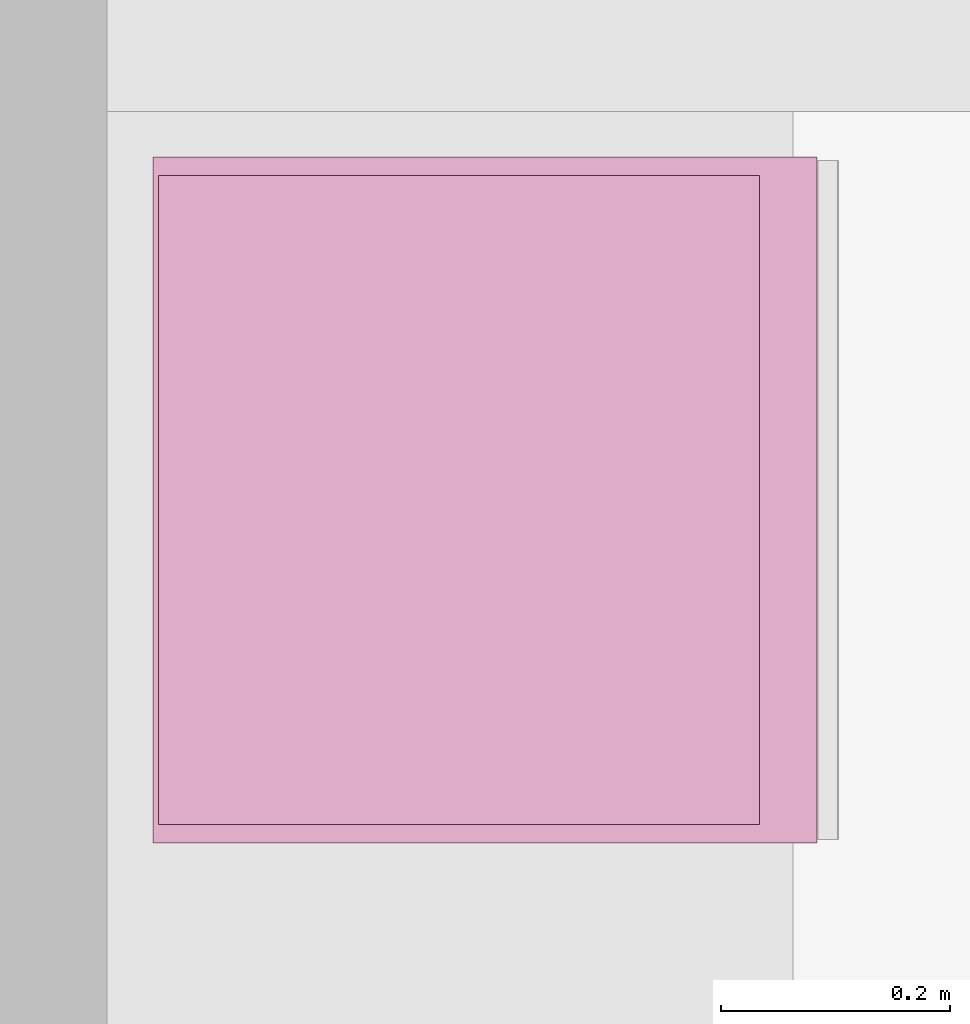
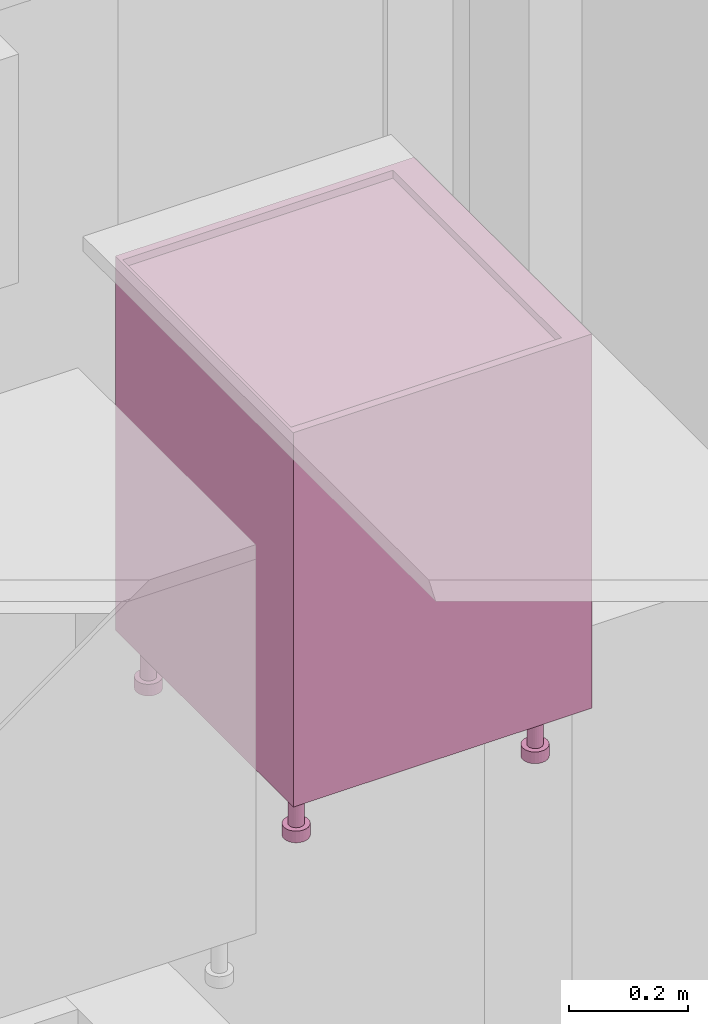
# One storey, part 72 of 125: 1 furnishing.
"""IFC2X3 building model written with IfcOpenShell, lengths in millimetres."""

from ifc_helpers import new_model, entity, si_unit, converted_unit, direction, frame, origin, place, context, subcontext, project, spatial, faceted_brep, source, transform, mapped, material, type_object, type_shapes, element, save


model = new_model("IFC2X3")

# Units and contexts
model_context = context("Model", 3, precision=0.01, world=origin(), true_north=direction((6.123233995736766e-17, 1.0)))
plan_context = context("Plan", 3, precision=0.01, world=origin(), true_north=direction((6.123233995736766e-17, 1.0)))
body_context = subcontext(model_context, "Body", "Model", "MODEL_VIEW")
ifc_project = project(units=[si_unit("LENGTHUNIT", "METRE", prefix="MILLI"), converted_unit("PLANEANGLEUNIT", "DEGREE", entity("IfcPlaneAngleMeasure", 0.017453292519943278), si_unit("PLANEANGLEUNIT", "RADIAN"), dimensions=[0, 0, 0, 0, 0, 0, 0]), si_unit("AREAUNIT", "SQUARE_METRE")], contexts=[model_context, plan_context])

# Site, building, storey, space
site_placement = place(None, origin())
site = spatial("IfcSite", under=ifc_project, at=site_placement, Name="Default", CompositionType="ELEMENT")
building_placement = place(site_placement, origin())
building = spatial("IfcBuilding", under=site, at=building_placement, CompositionType="ELEMENT")
storey_placement = place(building_placement, frame((0.0, 0.0, 3125.0)))
storey = spatial("IfcBuildingStorey", under=building, at=storey_placement, Name="2K", CompositionType="ELEMENT", Elevation=3125.0)
space_placement = place(storey_placement, origin())
space = spatial("IfcSpace", under=storey, at=space_placement, Name="2-2.4", CompositionType="ELEMENT", InteriorOrExteriorSpace="INTERNAL")

# Furnishing
ifc_material = material(Name="<Unnamed>")
furniture_type = type_object("IfcFurnitureType", Name="HR_Casework_Kitchen_Generic_Appliance_v1:Washing Machine", AssemblyPlace="NOTDEFINED", material=ifc_material)
shared_shape = source(origin(), body_context, "Body", "Brep", [
    faceted_brep([(305.7003264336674, -585.7846096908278, -3101.0), (310.6708891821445, -581.9705627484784, -3101.0), (300.70032643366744, -577.1243556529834, -3101.0), (297.32379306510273, -578.5229615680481, -3101.0), (299.91198351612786, -588.1822198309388, -3101.0), (303.59982137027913, -574.8994949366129, -3101.0), (314.4849361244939, -577.0, -3101.0), (305.82468208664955, -572.0, -3101.0), (307.2232880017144, -568.6234666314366, -3101.0), (316.8825462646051, -571.2116570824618, -3101.0), (307.70032643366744, -565.0, -3101.0), (317.7003264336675, -565.0, -3101.0), (307.2232880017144, -561.3765333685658, -3101.0), (316.88254626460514, -558.7883429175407, -3101.0), (305.82468208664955, -558.0, -3101.0), (314.484936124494, -553.0, -3101.0), (303.59982137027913, -555.1005050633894, -3101.0), (310.67088918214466, -548.0294372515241, -3101.0), (300.70032643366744, -552.875644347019, -3101.0), (305.7003264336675, -544.2153903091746, -3101.0), (297.32379306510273, -551.4770384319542, -3101.0), (299.91198351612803, -541.8177801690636, -3101.0), (293.7003264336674, -551.0, -3101.0), (293.70032643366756, -541.0, -3101.0), (290.07685980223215, -551.4770384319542, -3101.0), (287.488669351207, -541.8177801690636, -3101.0), (286.70032643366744, -552.875644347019, -3101.0), (281.7003264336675, -544.2153903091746, -3101.0), (283.80083149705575, -555.1005050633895, -3101.0), (276.7297636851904, -548.029437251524, -3101.0), (281.5759707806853, -558.0, -3101.0), (272.91571674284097, -553.0, -3101.0), (270.51810660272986, -558.7883429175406, -3101.0), (280.1773648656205, -561.3765333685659, -3101.0), (269.7003264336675, -565.0, -3101.0), (279.7003264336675, -565.0, -3101.0), (270.51810660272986, -571.2116570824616, -3101.0), (280.1773648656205, -568.6234666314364, -3101.0), (272.9157167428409, -577.0, -3101.0), (281.57597078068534, -572.0, -3101.0), (276.7297636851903, -581.9705627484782, -3101.0), (283.80083149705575, -574.8994949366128, -3101.0), (281.70032643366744, -585.7846096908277, -3101.0), (286.70032643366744, -577.1243556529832, -3101.0), (287.4886693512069, -588.1822198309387, -3101.0), (290.07685980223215, -578.5229615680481, -3101.0), (293.7003264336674, -589.0, -3101.0), (293.70032643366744, -579.0, -3101.0), (299.91198351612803, -541.8177801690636, -3125.0), (305.7003264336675, -544.2153903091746, -3125.0), (310.67088918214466, -548.0294372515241, -3125.0), (314.484936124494, -553.0, -3125.0), (316.88254626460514, -558.7883429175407, -3125.0), (317.7003264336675, -565.0, -3125.0), (316.8825462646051, -571.2116570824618, -3125.0), (314.4849361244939, -577.0, -3125.0), (310.6708891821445, -581.9705627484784, -3125.0), (305.7003264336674, -585.7846096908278, -3125.0), (299.91198351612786, -588.1822198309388, -3125.0), (293.7003264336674, -589.0, -3125.0), (287.4886693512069, -588.1822198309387, -3125.0), (281.70032643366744, -585.7846096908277, -3125.0), (276.7297636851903, -581.9705627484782, -3125.0), (272.9157167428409, -577.0, -3125.0), (270.51810660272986, -571.2116570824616, -3125.0), (269.7003264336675, -565.0, -3125.0), (270.51810660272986, -558.7883429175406, -3125.0), (272.91571674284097, -553.0, -3125.0), (276.7297636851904, -548.029437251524, -3125.0), (281.7003264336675, -544.2153903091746, -3125.0), (287.488669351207, -541.8177801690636, -3125.0), (293.70032643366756, -541.0, -3125.0), (297.32379306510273, -578.5229615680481, -3025.0), (300.70032643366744, -577.1243556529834, -3025.0), (303.59982137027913, -574.8994949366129, -3025.0), (305.8246820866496, -572.0, -3025.0), (307.2232880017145, -568.6234666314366, -3025.0), (307.70032643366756, -565.0, -3025.0), (307.2232880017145, -561.3765333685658, -3025.0), (305.8246820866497, -558.0, -3025.0), (303.5998213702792, -555.1005050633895, -3025.0), (300.70032643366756, -552.875644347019, -3025.0), (297.32379306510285, -551.4770384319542, -3025.0), (293.70032643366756, -551.0, -3025.0), (290.07685980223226, -551.4770384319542, -3025.0), (286.70032643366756, -552.875644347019, -3025.0), (283.80083149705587, -555.1005050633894, -3025.0), (281.5759707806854, -558.0, -3025.0), (280.1773648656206, -561.3765333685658, -3025.0), (279.70032643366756, -565.0, -3025.0), (280.1773648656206, -568.6234666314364, -3025.0), (281.5759707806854, -572.0, -3025.0), (283.8008314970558, -574.8994949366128, -3025.0), (286.7003264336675, -577.1243556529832, -3025.0), (290.07685980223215, -578.5229615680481, -3025.0), (293.70032643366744, -579.0, -3025.0)], [[[0, 1, 2]], [[0, 2, 3]], [[3, 4, 0]], [[2, 1, 5]], [[6, 5, 1]], [[7, 5, 6]], [[8, 7, 6]], [[8, 6, 9]], [[8, 9, 10]], [[10, 9, 11]], [[12, 10, 11]], [[12, 11, 13]], [[14, 12, 13]], [[14, 13, 15]], [[16, 14, 15]], [[15, 17, 16]], [[17, 18, 16]], [[18, 17, 19]], [[18, 19, 20]], [[21, 20, 19]], [[20, 21, 22]], [[22, 21, 23]], [[23, 24, 22]], [[24, 23, 25]], [[24, 25, 26]], [[27, 26, 25]], [[27, 28, 26]], [[27, 29, 28]], [[30, 28, 29]], [[31, 30, 29]], [[32, 30, 31]], [[33, 30, 32]], [[33, 32, 34]], [[34, 35, 33]], [[36, 35, 34]], [[36, 37, 35]], [[37, 36, 38]], [[39, 37, 38]], [[39, 38, 40]], [[39, 40, 41]], [[40, 42, 41]], [[41, 42, 43]], [[43, 42, 44]], [[44, 45, 43]], [[46, 45, 44]], [[4, 47, 46]], [[45, 46, 47]], [[4, 3, 47]], [[48, 49, 50, 51, 52, 53, 54, 55, 56, 57, 58, 59, 60, 61, 62, 63, 64, 65, 66, 67, 68, 69, 70, 71]], [[64, 36, 34, 65]], [[63, 38, 36, 64]], [[42, 40, 62, 61]], [[63, 62, 40, 38]], [[44, 42, 61, 60]], [[46, 44, 60, 59]], [[58, 4, 46, 59]], [[57, 0, 4, 58]], [[54, 53, 11, 9]], [[1, 0, 57, 56]], [[6, 55, 54, 9]], [[6, 1, 56, 55]], [[52, 13, 11, 53]], [[51, 15, 13, 52]], [[19, 17, 50, 49]], [[51, 50, 17, 15]], [[21, 19, 49, 48]], [[23, 21, 48, 71]], [[27, 69, 68, 29]], [[31, 67, 66, 32]], [[68, 67, 31, 29]], [[32, 66, 65, 34]], [[25, 70, 69, 27]], [[70, 25, 23, 71]], [[72, 73, 74, 75, 76, 77, 78, 79, 80, 81, 82, 83, 84, 85, 86, 87, 88, 89, 90, 91, 92, 93, 94, 95]], [[37, 39, 91, 90]], [[35, 37, 90, 89]], [[43, 45, 94, 93]], [[41, 43, 93, 92]], [[39, 41, 92, 91]], [[47, 95, 94, 45]], [[2, 5, 74, 73]], [[3, 2, 73, 72]], [[8, 10, 77, 76]], [[7, 8, 76, 75]], [[5, 7, 75, 74]], [[3, 72, 95, 47]], [[79, 78, 12, 14]], [[78, 77, 10, 12]], [[80, 16, 18, 81]], [[16, 80, 79, 14]], [[81, 18, 20, 82]], [[22, 83, 82, 20]], [[26, 28, 86, 85]], [[24, 26, 85, 84]], [[33, 35, 89, 88]], [[30, 33, 88, 87]], [[28, 30, 87, 86]], [[24, 84, 83, 22]]]),
    faceted_brep([(-192.29967356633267, -585.7846096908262, -3101.0), (-187.3291108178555, -581.9705627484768, -3101.0), (-197.29967356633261, -577.1243556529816, -3101.0), (-200.67620693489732, -578.5229615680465, -3101.0), (-198.08801648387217, -588.1822198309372, -3101.0), (-194.40017862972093, -574.8994949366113, -3101.0), (-183.51506387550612, -577.0, -3101.0), (-192.17531791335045, -572.0, -3101.0), (-190.77671199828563, -568.6234666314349, -3101.0), (-181.11745373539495, -571.2116570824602, -3101.0), (-190.29967356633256, -565.0, -3101.0), (-180.29967356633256, -565.0, -3101.0), (-190.77671199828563, -561.3765333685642, -3101.0), (-181.11745373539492, -558.788342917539, -3101.0), (-192.17531791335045, -558.0, -3101.0), (-183.515063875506, -553.0, -3101.0), (-194.40017862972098, -555.1005050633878, -3101.0), (-187.3291108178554, -548.0294372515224, -3101.0), (-197.29967356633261, -552.8756443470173, -3101.0), (-192.29967356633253, -544.215390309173, -3101.0), (-200.67620693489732, -551.4770384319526, -3101.0), (-198.08801648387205, -541.8177801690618, -3101.0), (-204.29967356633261, -551.0, -3101.0), (-204.29967356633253, -541.0, -3101.0), (-207.92314019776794, -551.4770384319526, -3101.0), (-210.51133064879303, -541.8177801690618, -3101.0), (-211.29967356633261, -552.8756443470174, -3101.0), (-216.29967356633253, -544.215390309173, -3101.0), (-214.19916850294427, -555.1005050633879, -3101.0), (-221.27023631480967, -548.0294372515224, -3101.0), (-216.42402921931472, -558.0, -3101.0), (-225.08428325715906, -553.0, -3101.0), (-227.48189339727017, -558.788342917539, -3101.0), (-217.8226351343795, -561.3765333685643, -3101.0), (-228.2996735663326, -565.0, -3101.0), (-218.29967356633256, -565.0, -3101.0), (-227.48189339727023, -571.21165708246, -3101.0), (-217.8226351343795, -568.6234666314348, -3101.0), (-225.08428325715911, -577.0, -3101.0), (-216.42402921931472, -572.0, -3101.0), (-221.27023631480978, -581.9705627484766, -3101.0), (-214.19916850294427, -574.8994949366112, -3101.0), (-216.29967356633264, -585.784609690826, -3101.0), (-211.29967356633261, -577.1243556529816, -3101.0), (-210.51133064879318, -588.1822198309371, -3101.0), (-207.9231401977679, -578.5229615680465, -3101.0), (-204.2996735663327, -589.0, -3101.0), (-204.29967356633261, -579.0, -3101.0), (-198.08801648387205, -541.8177801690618, -3125.0), (-192.29967356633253, -544.215390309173, -3125.0), (-187.3291108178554, -548.0294372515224, -3125.0), (-183.515063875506, -553.0, -3125.0), (-181.11745373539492, -558.788342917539, -3125.0), (-180.29967356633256, -565.0, -3125.0), (-181.11745373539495, -571.2116570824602, -3125.0), (-183.51506387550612, -577.0, -3125.0), (-187.3291108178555, -581.9705627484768, -3125.0), (-192.29967356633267, -585.7846096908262, -3125.0), (-198.08801648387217, -588.1822198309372, -3125.0), (-204.2996735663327, -589.0, -3125.0), (-210.51133064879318, -588.1822198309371, -3125.0), (-216.29967356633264, -585.784609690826, -3125.0), (-221.27023631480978, -581.9705627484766, -3125.0), (-225.08428325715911, -577.0, -3125.0), (-227.48189339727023, -571.21165708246, -3125.0), (-228.2996735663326, -565.0, -3125.0), (-227.48189339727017, -558.788342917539, -3125.0), (-225.08428325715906, -553.0, -3125.0), (-221.27023631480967, -548.0294372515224, -3125.0), (-216.29967356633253, -544.215390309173, -3125.0), (-210.51133064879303, -541.8177801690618, -3125.0), (-204.29967356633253, -541.0, -3125.0), (-200.67620693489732, -578.5229615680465, -3025.0), (-197.29967356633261, -577.1243556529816, -3025.0), (-194.40017862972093, -574.8994949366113, -3025.0), (-192.17531791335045, -572.0, -3025.0), (-190.77671199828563, -568.6234666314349, -3025.0), (-190.29967356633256, -565.0, -3025.0), (-190.77671199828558, -561.3765333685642, -3025.0), (-192.1753179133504, -558.0, -3025.0), (-194.40017862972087, -555.1005050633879, -3025.0), (-197.29967356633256, -552.8756443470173, -3025.0), (-200.67620693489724, -551.4770384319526, -3025.0), (-204.29967356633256, -551.0, -3025.0), (-207.92314019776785, -551.4770384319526, -3025.0), (-211.29967356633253, -552.8756443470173, -3025.0), (-214.1991685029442, -555.1005050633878, -3025.0), (-216.4240292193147, -558.0, -3025.0), (-217.8226351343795, -561.3765333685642, -3025.0), (-218.29967356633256, -565.0, -3025.0), (-217.8226351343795, -568.6234666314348, -3025.0), (-216.42402921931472, -572.0, -3025.0), (-214.19916850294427, -574.8994949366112, -3025.0), (-211.2996735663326, -577.1243556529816, -3025.0), (-207.9231401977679, -578.5229615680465, -3025.0), (-204.29967356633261, -579.0, -3025.0)], [[[0, 1, 2]], [[0, 2, 3]], [[3, 4, 0]], [[2, 1, 5]], [[6, 5, 1]], [[7, 5, 6]], [[8, 7, 6]], [[8, 6, 9]], [[8, 9, 10]], [[10, 9, 11]], [[12, 10, 11]], [[12, 11, 13]], [[14, 12, 13]], [[14, 13, 15]], [[16, 14, 15]], [[15, 17, 16]], [[17, 18, 16]], [[18, 17, 19]], [[18, 19, 20]], [[21, 20, 19]], [[20, 21, 22]], [[22, 21, 23]], [[23, 24, 22]], [[24, 23, 25]], [[24, 25, 26]], [[27, 26, 25]], [[27, 28, 26]], [[27, 29, 28]], [[30, 28, 29]], [[31, 30, 29]], [[32, 30, 31]], [[33, 30, 32]], [[33, 32, 34]], [[34, 35, 33]], [[36, 35, 34]], [[36, 37, 35]], [[37, 36, 38]], [[39, 37, 38]], [[39, 38, 40]], [[39, 40, 41]], [[40, 42, 41]], [[41, 42, 43]], [[43, 42, 44]], [[44, 45, 43]], [[46, 45, 44]], [[4, 47, 46]], [[45, 46, 47]], [[4, 3, 47]], [[48, 49, 50, 51, 52, 53, 54, 55, 56, 57, 58, 59, 60, 61, 62, 63, 64, 65, 66, 67, 68, 69, 70, 71]], [[64, 36, 34, 65]], [[63, 38, 36, 64]], [[42, 40, 62, 61]], [[63, 62, 40, 38]], [[44, 42, 61, 60]], [[46, 44, 60, 59]], [[58, 4, 46, 59]], [[57, 0, 4, 58]], [[54, 53, 11, 9]], [[1, 0, 57, 56]], [[6, 55, 54, 9]], [[6, 1, 56, 55]], [[52, 13, 11, 53]], [[51, 15, 13, 52]], [[19, 17, 50, 49]], [[51, 50, 17, 15]], [[21, 19, 49, 48]], [[23, 21, 48, 71]], [[27, 69, 68, 29]], [[31, 67, 66, 32]], [[68, 67, 31, 29]], [[32, 66, 65, 34]], [[25, 70, 69, 27]], [[70, 25, 23, 71]], [[72, 73, 74, 75, 76, 77, 78, 79, 80, 81, 82, 83, 84, 85, 86, 87, 88, 89, 90, 91, 92, 93, 94, 95]], [[37, 39, 91, 90]], [[35, 37, 90, 89]], [[43, 45, 94, 93]], [[41, 43, 93, 92]], [[39, 41, 92, 91]], [[47, 95, 94, 45]], [[2, 5, 74, 73]], [[3, 2, 73, 72]], [[8, 10, 77, 76]], [[7, 8, 76, 75]], [[5, 7, 75, 74]], [[3, 72, 95, 47]], [[79, 78, 12, 14]], [[78, 77, 10, 12]], [[80, 16, 18, 81]], [[16, 80, 79, 14]], [[81, 18, 20, 82]], [[22, 83, 82, 20]], [[26, 28, 86, 85]], [[24, 26, 85, 84]], [[33, 35, 89, 88]], [[30, 33, 88, 87]], [[28, 30, 87, 86]], [[24, 84, 83, 22]]]),
    faceted_brep([(305.70032643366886, -120.78460969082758, -3101.0), (310.670889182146, -116.97056274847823, -3101.0), (300.7003264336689, -112.12435565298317, -3101.0), (297.3237930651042, -113.52296156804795, -3101.0), (299.91198351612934, -123.18221983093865, -3101.0), (303.5998213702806, -109.8994949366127, -3101.0), (314.48493612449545, -112.0, -3101.0), (305.824682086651, -107.0, -3101.0), (307.2232880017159, -103.62346663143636, -3101.0), (316.88254626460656, -106.21165708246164, -3101.0), (307.700326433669, -100.0, -3101.0), (317.700326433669, -100.0, -3101.0), (307.2232880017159, -96.3765333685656, -3101.0), (316.8825462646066, -93.78834291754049, -3101.0), (305.824682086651, -93.0, -3101.0), (314.4849361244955, -88.0, -3101.0), (303.5998213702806, -90.10050506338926, -3101.0), (310.67088918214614, -83.02943725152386, -3101.0), (300.7003264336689, -87.8756443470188, -3101.0), (305.700326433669, -79.21539030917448, -3101.0), (297.3237930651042, -86.477038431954, -3101.0), (299.9119835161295, -76.81778016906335, -3101.0), (293.70032643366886, -86.0, -3101.0), (293.70032643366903, -76.0, -3101.0), (290.0768598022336, -86.47703843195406, -3101.0), (287.4886693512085, -76.81778016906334, -3101.0), (286.7003264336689, -87.87564434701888, -3101.0), (281.700326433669, -79.21539030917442, -3101.0), (283.8008314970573, -90.10050506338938, -3101.0), (276.72976368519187, -83.0294372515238, -3101.0), (281.5759707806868, -93.0, -3101.0), (272.91571674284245, -88.0, -3101.0), (270.51810660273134, -93.78834291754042, -3101.0), (280.177364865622, -96.37653336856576, -3101.0), (269.700326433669, -100.0, -3101.0), (279.700326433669, -100.0, -3101.0), (270.51810660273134, -106.2116570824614, -3101.0), (280.177364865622, -103.62346663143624, -3101.0), (272.9157167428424, -112.0, -3101.0), (281.5759707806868, -107.0, -3101.0), (276.72976368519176, -116.97056274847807, -3101.0), (283.8008314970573, -109.89949493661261, -3101.0), (281.7003264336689, -120.78460969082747, -3101.0), (286.7003264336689, -112.1243556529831, -3101.0), (287.4886693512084, -123.1822198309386, -3101.0), (290.0768598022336, -113.52296156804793, -3101.0), (293.70032643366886, -124.0, -3101.0), (293.7003264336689, -114.0, -3101.0), (299.9119835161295, -76.81778016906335, -3125.0), (305.700326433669, -79.21539030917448, -3125.0), (310.67088918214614, -83.02943725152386, -3125.0), (314.4849361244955, -88.0, -3125.0), (316.8825462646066, -93.78834291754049, -3125.0), (317.700326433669, -100.0, -3125.0), (316.88254626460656, -106.21165708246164, -3125.0), (314.48493612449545, -112.0, -3125.0), (310.670889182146, -116.97056274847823, -3125.0), (305.70032643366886, -120.78460969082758, -3125.0), (299.91198351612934, -123.18221983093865, -3125.0), (293.70032643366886, -124.0, -3125.0), (287.4886693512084, -123.1822198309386, -3125.0), (281.7003264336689, -120.78460969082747, -3125.0), (276.72976368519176, -116.97056274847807, -3125.0), (272.9157167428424, -112.0, -3125.0), (270.51810660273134, -106.2116570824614, -3125.0), (269.700326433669, -100.0, -3125.0), (270.51810660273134, -93.78834291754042, -3125.0), (272.91571674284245, -88.0, -3125.0), (276.72976368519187, -83.0294372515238, -3125.0), (281.700326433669, -79.21539030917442, -3125.0), (287.4886693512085, -76.81778016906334, -3125.0), (293.70032643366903, -76.0, -3125.0), (297.32379306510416, -113.52296156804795, -3025.0), (300.70032643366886, -112.12435565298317, -3025.0), (303.59982137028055, -109.8994949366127, -3025.0), (305.824682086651, -107.0, -3025.0), (307.22328800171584, -103.62346663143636, -3025.0), (307.700326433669, -100.0, -3025.0), (307.2232880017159, -96.3765333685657, -3025.0), (305.82468208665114, -93.0, -3025.0), (303.5998213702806, -90.10050506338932, -3025.0), (300.700326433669, -87.87564434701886, -3025.0), (297.32379306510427, -86.47703843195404, -3025.0), (293.700326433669, -86.0, -3025.0), (290.0768598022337, -86.47703843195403, -3025.0), (286.700326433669, -87.87564434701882, -3025.0), (283.8008314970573, -90.1005050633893, -3025.0), (281.5759707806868, -93.0, -3025.0), (280.177364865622, -96.37653336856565, -3025.0), (279.700326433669, -100.0, -3025.0), (280.177364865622, -103.62346663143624, -3025.0), (281.5759707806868, -107.0, -3025.0), (283.80083149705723, -109.89949493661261, -3025.0), (286.7003264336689, -112.1243556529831, -3025.0), (290.07685980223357, -113.52296156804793, -3025.0), (293.70032643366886, -114.0, -3025.0)], [[[0, 1, 2]], [[0, 2, 3]], [[3, 4, 0]], [[2, 1, 5]], [[6, 5, 1]], [[7, 5, 6]], [[8, 7, 6]], [[8, 6, 9]], [[8, 9, 10]], [[10, 9, 11]], [[12, 10, 11]], [[12, 11, 13]], [[14, 12, 13]], [[14, 13, 15]], [[16, 14, 15]], [[15, 17, 16]], [[17, 18, 16]], [[18, 17, 19]], [[18, 19, 20]], [[21, 20, 19]], [[20, 21, 22]], [[22, 21, 23]], [[23, 24, 22]], [[24, 23, 25]], [[24, 25, 26]], [[27, 26, 25]], [[27, 28, 26]], [[27, 29, 28]], [[30, 28, 29]], [[31, 30, 29]], [[32, 30, 31]], [[33, 30, 32]], [[33, 32, 34]], [[34, 35, 33]], [[36, 35, 34]], [[36, 37, 35]], [[37, 36, 38]], [[39, 37, 38]], [[39, 38, 40]], [[39, 40, 41]], [[40, 42, 41]], [[41, 42, 43]], [[43, 42, 44]], [[44, 45, 43]], [[46, 45, 44]], [[4, 47, 46]], [[45, 46, 47]], [[4, 3, 47]], [[48, 49, 50, 51, 52, 53, 54, 55, 56, 57, 58, 59, 60, 61, 62, 63, 64, 65, 66, 67, 68, 69, 70, 71]], [[64, 36, 34, 65]], [[63, 38, 36, 64]], [[42, 40, 62, 61]], [[63, 62, 40, 38]], [[44, 42, 61, 60]], [[46, 44, 60, 59]], [[58, 4, 46, 59]], [[57, 0, 4, 58]], [[54, 53, 11, 9]], [[1, 0, 57, 56]], [[6, 55, 54, 9]], [[6, 1, 56, 55]], [[52, 13, 11, 53]], [[51, 15, 13, 52]], [[19, 17, 50, 49]], [[51, 50, 17, 15]], [[21, 19, 49, 48]], [[23, 21, 48, 71]], [[27, 69, 68, 29]], [[31, 67, 66, 32]], [[68, 67, 31, 29]], [[32, 66, 65, 34]], [[25, 70, 69, 27]], [[70, 25, 23, 71]], [[72, 73, 74, 75, 76, 77, 78, 79, 80, 81, 82, 83, 84, 85, 86, 87, 88, 89, 90, 91, 92, 93, 94, 95]], [[37, 39, 91, 90]], [[35, 37, 90, 89]], [[43, 45, 94, 93]], [[41, 43, 93, 92]], [[39, 41, 92, 91]], [[47, 95, 94, 45]], [[2, 5, 74, 73]], [[3, 2, 73, 72]], [[8, 10, 77, 76]], [[7, 8, 76, 75]], [[5, 7, 75, 74]], [[3, 72, 95, 47]], [[79, 78, 12, 14]], [[78, 77, 10, 12]], [[80, 16, 18, 81]], [[16, 80, 79, 14]], [[81, 18, 20, 82]], [[22, 83, 82, 20]], [[26, 28, 86, 85]], [[24, 26, 85, 84]], [[33, 35, 89, 88]], [[30, 33, 88, 87]], [[28, 30, 87, 86]], [[24, 84, 83, 22]]]),
    faceted_brep([(-192.299673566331, -120.78460969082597, -3101.0), (-187.3291108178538, -116.97056274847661, -3101.0), (-197.29967356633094, -112.12435565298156, -3101.0), (-200.67620693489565, -113.52296156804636, -3101.0), (-198.0880164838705, -123.18221983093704, -3101.0), (-194.40017862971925, -109.89949493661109, -3101.0), (-183.5150638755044, -112.0, -3101.0), (-192.17531791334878, -107.0, -3101.0), (-190.77671199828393, -103.62346663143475, -3101.0), (-181.11745373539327, -106.21165708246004, -3101.0), (-190.29967356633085, -100.0, -3101.0), (-180.29967356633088, -100.0, -3101.0), (-190.77671199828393, -96.376533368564, -3101.0), (-181.11745373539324, -93.78834291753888, -3101.0), (-192.17531791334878, -93.0, -3101.0), (-183.51506387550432, -88.0, -3101.0), (-194.40017862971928, -90.10050506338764, -3101.0), (-187.32911081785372, -83.02943725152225, -3101.0), (-197.29967356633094, -87.8756443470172, -3101.0), (-192.29967356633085, -79.21539030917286, -3101.0), (-200.67620693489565, -86.4770384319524, -3101.0), (-198.08801648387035, -76.81778016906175, -3101.0), (-204.29967356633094, -86.0, -3101.0), (-204.29967356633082, -76.0, -3101.0), (-207.92314019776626, -86.47703843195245, -3101.0), (-210.51133064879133, -76.81778016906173, -3101.0), (-211.29967356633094, -87.87564434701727, -3101.0), (-216.29967356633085, -79.21539030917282, -3101.0), (-214.19916850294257, -90.10050506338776, -3101.0), (-221.270236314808, -83.0294372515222, -3101.0), (-216.424029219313, -93.0, -3101.0), (-225.08428325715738, -88.0, -3101.0), (-227.4818933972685, -93.78834291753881, -3101.0), (-217.82263513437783, -96.37653336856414, -3101.0), (-228.29967356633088, -100.0, -3101.0), (-218.29967356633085, -100.0, -3101.0), (-227.48189339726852, -106.2116570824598, -3101.0), (-217.82263513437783, -103.62346663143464, -3101.0), (-225.08428325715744, -112.0, -3101.0), (-216.424029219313, -107.0, -3101.0), (-221.27023631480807, -116.97056274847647, -3101.0), (-214.19916850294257, -109.899494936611, -3101.0), (-216.29967356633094, -120.78460969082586, -3101.0), (-211.29967356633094, -112.12435565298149, -3101.0), (-210.51133064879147, -123.18221983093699, -3101.0), (-207.9231401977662, -113.52296156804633, -3101.0), (-204.299673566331, -124.0, -3101.0), (-204.29967356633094, -114.0, -3101.0), (-198.08801648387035, -76.81778016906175, -3125.0), (-192.29967356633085, -79.21539030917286, -3125.0), (-187.32911081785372, -83.02943725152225, -3125.0), (-183.51506387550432, -88.0, -3125.0), (-181.11745373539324, -93.78834291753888, -3125.0), (-180.29967356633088, -100.0, -3125.0), (-181.11745373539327, -106.21165708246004, -3125.0), (-183.5150638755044, -112.0, -3125.0), (-187.3291108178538, -116.97056274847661, -3125.0), (-192.299673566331, -120.78460969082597, -3125.0), (-198.0880164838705, -123.18221983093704, -3125.0), (-204.299673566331, -124.0, -3125.0), (-210.51133064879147, -123.18221983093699, -3125.0), (-216.29967356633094, -120.78460969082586, -3125.0), (-221.27023631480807, -116.97056274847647, -3125.0), (-225.08428325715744, -112.0, -3125.0), (-227.48189339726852, -106.2116570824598, -3125.0), (-228.29967356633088, -100.0, -3125.0), (-227.4818933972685, -93.78834291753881, -3125.0), (-225.08428325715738, -88.0, -3125.0), (-221.270236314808, -83.0294372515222, -3125.0), (-216.29967356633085, -79.21539030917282, -3125.0), (-210.51133064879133, -76.81778016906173, -3125.0), (-204.29967356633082, -76.0, -3125.0), (-200.67620693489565, -113.52296156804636, -3025.0), (-197.29967356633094, -112.12435565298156, -3025.0), (-194.40017862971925, -109.89949493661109, -3025.0), (-192.17531791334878, -107.0, -3025.0), (-190.77671199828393, -103.62346663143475, -3025.0), (-190.29967356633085, -100.0, -3025.0), (-190.7767119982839, -96.3765333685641, -3025.0), (-192.1753179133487, -93.0, -3025.0), (-194.4001786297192, -90.10050506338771, -3025.0), (-197.29967356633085, -87.87564434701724, -3025.0), (-200.67620693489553, -86.47703843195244, -3025.0), (-204.29967356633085, -86.0, -3025.0), (-207.92314019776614, -86.47703843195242, -3025.0), (-211.29967356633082, -87.87564434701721, -3025.0), (-214.1991685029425, -90.10050506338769, -3025.0), (-216.42402921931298, -93.0, -3025.0), (-217.82263513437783, -96.37653336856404, -3025.0), (-218.29967356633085, -100.0, -3025.0), (-217.82263513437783, -103.62346663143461, -3025.0), (-216.424029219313, -107.0, -3025.0), (-214.19916850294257, -109.899494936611, -3025.0), (-211.29967356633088, -112.12435565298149, -3025.0), (-207.9231401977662, -113.52296156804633, -3025.0), (-204.29967356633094, -114.0, -3025.0)], [[[0, 1, 2]], [[0, 2, 3]], [[3, 4, 0]], [[2, 1, 5]], [[6, 5, 1]], [[7, 5, 6]], [[8, 7, 6]], [[8, 6, 9]], [[8, 9, 10]], [[10, 9, 11]], [[12, 10, 11]], [[12, 11, 13]], [[14, 12, 13]], [[14, 13, 15]], [[16, 14, 15]], [[15, 17, 16]], [[17, 18, 16]], [[18, 17, 19]], [[18, 19, 20]], [[21, 20, 19]], [[20, 21, 22]], [[22, 21, 23]], [[23, 24, 22]], [[24, 23, 25]], [[24, 25, 26]], [[27, 26, 25]], [[27, 28, 26]], [[27, 29, 28]], [[30, 28, 29]], [[31, 30, 29]], [[32, 30, 31]], [[33, 30, 32]], [[33, 32, 34]], [[34, 35, 33]], [[36, 35, 34]], [[36, 37, 35]], [[37, 36, 38]], [[39, 37, 38]], [[39, 38, 40]], [[39, 40, 41]], [[40, 42, 41]], [[41, 42, 43]], [[43, 42, 44]], [[44, 45, 43]], [[46, 45, 44]], [[4, 47, 46]], [[45, 46, 47]], [[4, 3, 47]], [[48, 49, 50, 51, 52, 53, 54, 55, 56, 57, 58, 59, 60, 61, 62, 63, 64, 65, 66, 67, 68, 69, 70, 71]], [[64, 36, 34, 65]], [[63, 38, 36, 64]], [[42, 40, 62, 61]], [[63, 62, 40, 38]], [[44, 42, 61, 60]], [[46, 44, 60, 59]], [[58, 4, 46, 59]], [[57, 0, 4, 58]], [[54, 53, 11, 9]], [[1, 0, 57, 56]], [[6, 55, 54, 9]], [[6, 1, 56, 55]], [[52, 13, 11, 53]], [[51, 15, 13, 52]], [[19, 17, 50, 49]], [[51, 50, 17, 15]], [[21, 19, 49, 48]], [[23, 21, 48, 71]], [[27, 69, 68, 29]], [[31, 67, 66, 32]], [[68, 67, 31, 29]], [[32, 66, 65, 34]], [[25, 70, 69, 27]], [[70, 25, 23, 71]], [[72, 73, 74, 75, 76, 77, 78, 79, 80, 81, 82, 83, 84, 85, 86, 87, 88, 89, 90, 91, 92, 93, 94, 95]], [[37, 39, 91, 90]], [[35, 37, 90, 89]], [[43, 45, 94, 93]], [[41, 43, 93, 92]], [[39, 41, 92, 91]], [[47, 95, 94, 45]], [[2, 5, 74, 73]], [[3, 2, 73, 72]], [[8, 10, 77, 76]], [[7, 8, 76, 75]], [[5, 7, 75, 74]], [[3, 72, 95, 47]], [[79, 78, 12, 14]], [[78, 77, 10, 12]], [[80, 16, 18, 81]], [[16, 80, 79, 14]], [[81, 18, 20, 82]], [[22, 83, 82, 20]], [[26, 28, 86, 85]], [[24, 26, 85, 84]], [[33, 35, 89, 88]], [[30, 33, 88, 87]], [[28, 30, 87, 86]], [[24, 84, 83, 22]]]),
    faceted_brep([(328.70032643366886, -19.0, -3009.0), (-239.2996735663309, -19.0, -3009.0), (-239.29967356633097, -595.0, -3009.0), (328.70032643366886, -595.0, -3009.0), (328.70032643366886, -19.0, -3025.0), (328.70032643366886, -595.0, -3025.0), (-239.29967356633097, -595.0, -3025.0), (-239.29967356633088, -19.0, -3025.0)], [[[0, 1, 2, 3]], [[4, 5, 6, 7]], [[1, 0, 4, 7]], [[2, 1, 7, 6]], [[3, 2, 6, 5]], [[0, 3, 5, 4]]]),
    faceted_brep([(-255.29967356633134, -19.0, -2255.0), (-255.2996735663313, -600.0, -2255.0), (344.7003264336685, -600.0, -2255.0), (344.7003264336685, -19.0, -2255.0), (328.70032643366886, -19.0, -2255.0), (328.70032643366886, -595.0, -2255.0), (-239.2996735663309, -595.0, -2255.0), (-239.2996735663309, -19.0, -2255.0), (-255.29967356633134, -19.0, -3025.0), (-239.2996735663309, -19.0, -3025.0), (-239.29967356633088, -595.0, -3025.0), (328.70032643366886, -595.0, -3025.0), (328.70032643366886, -19.0, -3025.0), (344.7003264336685, -19.0, -3025.0), (344.7003264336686, -600.0, -3025.0), (-255.2996735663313, -600.0, -3025.0)], [[[0, 1, 2, 3, 4, 5, 6, 7]], [[8, 9, 10, 11, 12, 13, 14, 15]], [[1, 0, 8, 15]], [[0, 7, 9, 8]], [[7, 6, 10, 9]], [[5, 4, 12, 11]], [[4, 3, 13, 12]], [[3, 2, 14, 13]], [[2, 1, 15, 14]], [[6, 5, 11, 10]]]),
    faceted_brep([(328.70032643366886, -69.0, -2255.0), (328.70032643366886, -19.0, -2255.0), (-239.29967356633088, -19.0, -2255.0), (-239.29967356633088, -69.0, -2255.0), (328.70032643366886, -69.0, -2271.0), (-239.29967356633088, -69.0, -2271.0), (-239.29967356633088, -19.0, -2271.0), (328.70032643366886, -19.0, -2271.0)], [[[0, 1, 2, 3]], [[4, 5, 6, 7]], [[0, 3, 5, 4]], [[3, 2, 6, 5]], [[2, 1, 7, 6]], [[1, 0, 4, 7]]]),
    faceted_brep([(328.7003264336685, -19.0, -2271.0), (-239.29967356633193, -19.0, -2271.0), (-239.2996735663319, -595.0, -2271.0), (328.7003264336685, -595.0, -2271.0), (328.7003264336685, -19.0, -3009.0), (328.7003264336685, -595.0, -3009.0), (-239.2996735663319, -595.0, -3009.0), (-239.2996735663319, -19.0, -3009.0)], [[[0, 1, 2, 3]], [[4, 5, 6, 7]], [[1, 0, 4, 7]], [[2, 1, 7, 6]], [[3, 2, 6, 5]], [[0, 3, 5, 4]]]),
])
type_shapes(furniture_type, [shared_shape])
furnishing_placement = place(space_placement, frame((3984.993534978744, 11221.700326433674, 6295.0), z_axis=(0.0, 0.0, 1.0), x_axis=(0.0, -1.0, 0.0)))
element("IfcFurnishingElement", 1, at=furnishing_placement, inside=space, type_object=furniture_type, material=ifc_material, Name="HR_Casework_Kitchen_Generic_Appliance_v1:Washing Machine", ObjectType="HR_Casework_Kitchen_Generic_Appliance_v1:Washing Machine", context=body_context, shape_type="MappedRepresentation", body=[
    mapped(shared_shape, transform((0.0, 0.0, 0.0), scale=1.0)),
])

save(model, "model.ifc")
